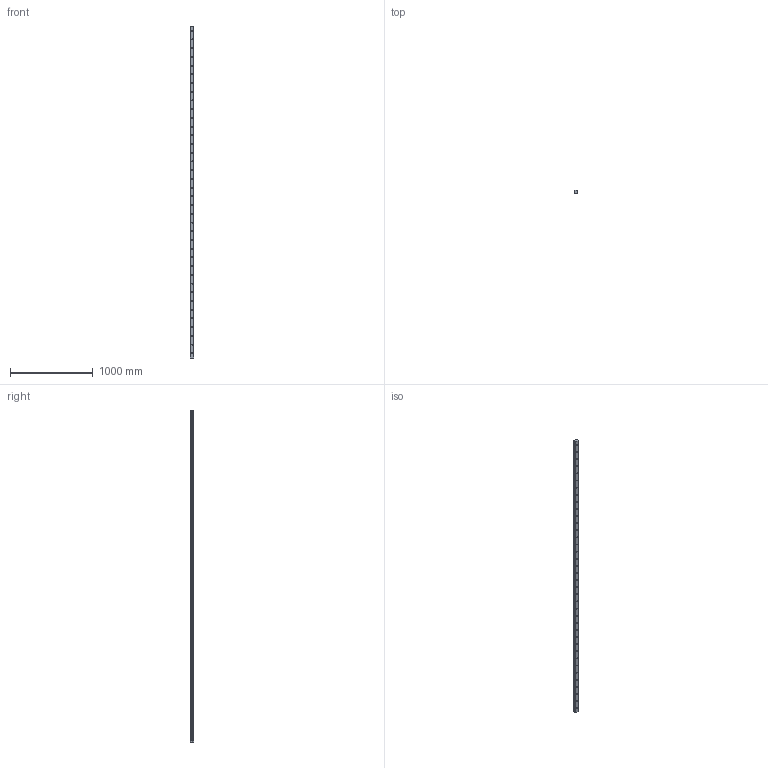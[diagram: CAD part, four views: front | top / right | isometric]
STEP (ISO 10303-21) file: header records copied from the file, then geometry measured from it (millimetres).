
FILE_DESCRIPTION (( 'STEP AP203' ), '1' );
FILE_NAME ('TR45-4000.STEP', '2019-05-29T10:38:36', ( '' ), ( '' ), 'SwSTEP 2.0', 'SolidWorks 2016', '' );
FILE_SCHEMA (( 'CONFIG_CONTROL_DESIGN' ));
Length unit declared in the file: millimetre
Products named in the file (1): TR45-4000
Bounding box: 45 x 38 x 4000 mm (x, y, z)
Volume: 6074154 mm3; surface area: 721067.7 mm2
Topology: 1 solids, 1 shells, 292 faces, 680 edges, 390 vertices
Faces by surface type: cylinder 158, cone 76, plane 58
Entity records: 7897 total; most frequent: DIRECTION 1506, CARTESIAN_POINT 1287, ORIENTED_EDGE 1208, AXIS2_PLACEMENT_3D 609, EDGE_CURVE 604, VERTEX_POINT 390, EDGE_LOOP 368, CIRCLE 316
